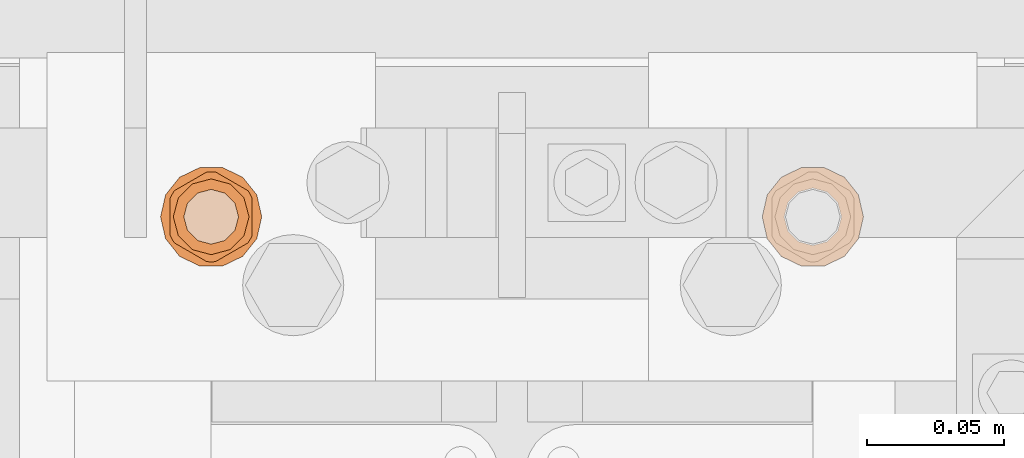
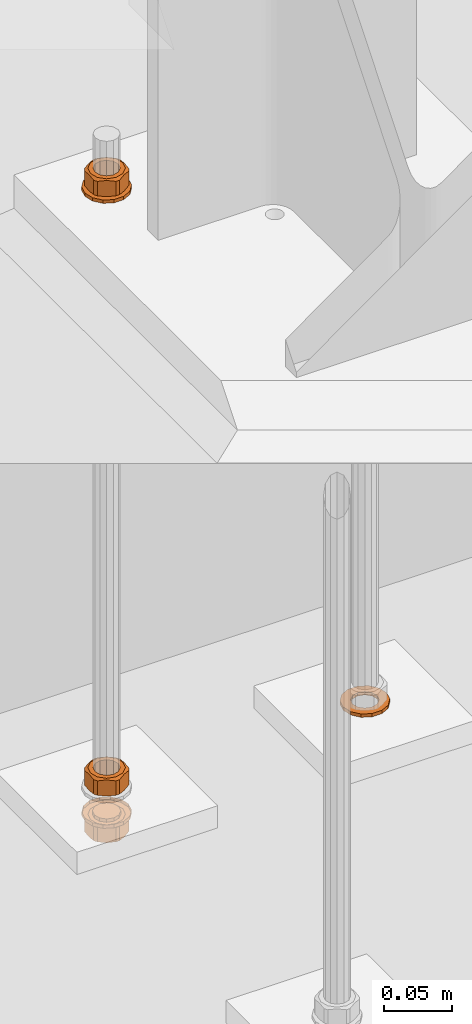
# One storey, part 140 of 145: 6 proxies.
"""IFC2X3 building model written with IfcOpenShell, lengths in millimetres."""

import ifcopenshell
import ifcopenshell.guid

model = None  # the IFC model being written
_history = None  # IfcOwnerHistory: only IFC2X3 demands one
_inside = {}  # id of a spatial element -> (the spatial element, [elements in it])
_under = {}  # id of a project, library or spatial element -> (it, [spatial elements below it])
_declared = {}  # id of a project -> (the project, [libraries it declares])
_typed = {}  # id of a type object -> (the type object, [elements of that type])
_made_of = {}  # id of a material, layer set ... -> (it, [elements and type objects made of it])


def new_model(schema):
    """Start an empty IFC model of exactly this schema.

    Asked for "IFC4X3", IfcOpenShell would pick the latest addendum, in which some entities
    have other attributes; the version numbers below select the first issue.
    IFC2X3 requires an IfcOwnerHistory on every rooted entity: one is made here for all.
    """
    global model, _history
    if schema == "IFC4X3":
        model = ifcopenshell.file(schema_version=(4, 3, 0, 0))
    else:
        model = ifcopenshell.file(schema=schema)
    _inside.clear()
    _under.clear()
    _declared.clear()
    _typed.clear()
    _made_of.clear()
    _history = None
    if model.schema == "IFC2X3":
        org = make("IfcOrganization", Name="unknown")
        user = make(
            "IfcPersonAndOrganization",
            ThePerson=make("IfcPerson", FamilyName="unknown"),
            TheOrganization=org,
        )
        app = make(
            "IfcApplication",
            ApplicationDeveloper=org,
            Version="unknown",
            ApplicationFullName="unknown",
            ApplicationIdentifier="unknown",
        )
        _history = make(
            "IfcOwnerHistory",
            OwningUser=user,
            OwningApplication=app,
            ChangeAction="ADDED",
            CreationDate=0,
        )
    return model


def make(cls, **values):
    """One entity of the class cls with the attributes given. An attribute that is None is left unset."""
    return model.create_entity(
        cls, **{name: value for name, value in values.items() if value is not None}
    )


def entity(cls, *values):
    """Any entity or typed value of the class cls, its attributes in the order of the schema. None: left unset."""
    e = model.create_entity(cls)
    for i, value in enumerate(values):
        if value is not None:
            e[i] = value
    return e


def rooted(cls, **values):
    """An entity with a GlobalId (a new one), such as an element, a storey or a relation."""
    return make(cls, GlobalId=ifcopenshell.guid.new(), OwnerHistory=_history, **values)


def si_unit(unit_type, name, prefix=None):
    """IfcSIUnit, for example si_unit("LENGTHUNIT", "METRE", prefix="MILLI")."""
    return make("IfcSIUnit", UnitType=unit_type, Prefix=prefix, Name=name)


def converted_unit(unit_type, name, factor, base, dimensions=None, offset=None):
    """IfcConversionBasedUnit, such as the inch: factor (a typed value) times the base unit."""
    return make(
        "IfcConversionBasedUnit"
        if offset is None
        else "IfcConversionBasedUnitWithOffset",
        ConversionOffset=offset,
        Dimensions=None
        if dimensions is None
        else entity("IfcDimensionalExponents", *dimensions),
        UnitType=unit_type,
        Name=name,
        ConversionFactor=make(
            "IfcMeasureWithUnit", ValueComponent=factor, UnitComponent=base
        ),
    )


def assignment(units):
    """IfcUnitAssignment: the units of a project."""
    return None if units is None else make("IfcUnitAssignment", Units=units)


def point(xyz):
    """IfcCartesianPoint."""
    return None if xyz is None else make("IfcCartesianPoint", Coordinates=xyz)


def direction(xyz):
    """IfcDirection."""
    return None if xyz is None else make("IfcDirection", DirectionRatios=xyz)


def frame(location, z_axis=None, x_axis=None):
    """IfcAxis2Placement3D, a coordinate frame: its origin and axes. An axis left out is left unset."""
    return make(
        "IfcAxis2Placement3D",
        Location=point(location),
        Axis=direction(z_axis),
        RefDirection=direction(x_axis),
    )


def origin_with_axes():
    """The frame at (0, 0, 0) with the z axis (0, 0, 1) and the x axis (1, 0, 0) written out."""
    return frame((0.0, 0.0, 0.0), z_axis=(0.0, 0.0, 1.0), x_axis=(1.0, 0.0, 0.0))


def place(relative_to, where):
    """IfcLocalPlacement: puts the frame where relative to a parent placement (None: the world)."""
    return make(
        "IfcLocalPlacement", PlacementRelTo=relative_to, RelativePlacement=where
    )


def context(
    kind, dimensions, precision=None, world=None, true_north=None, identifier=None
):
    """IfcGeometricRepresentationContext, for example the 3D "Model" context."""
    return make(
        "IfcGeometricRepresentationContext",
        ContextIdentifier=identifier,
        ContextType=kind,
        CoordinateSpaceDimension=dimensions,
        Precision=precision,
        WorldCoordinateSystem=world,
        TrueNorth=true_north,
    )


def project(units=None, contexts=None):
    """IfcProject with its units and contexts."""
    return rooted(
        "IfcProject",
        Name="project",
        RepresentationContexts=contexts,
        UnitsInContext=assignment(units),
    )


def spatial(cls, under=None, at=None, **own):
    """A site, building, storey or space (cls), placed at a placement, below another one or the project."""
    s = rooted(cls, ObjectPlacement=at, **own)
    if under is not None:
        _under.setdefault(under.id(), (under, []))[1].append(s)
    return s


def faces_of(points, faces, orient=None, outer=None):
    """IfcFace entities. A face is a list of loops; a loop is a list of indices into points, from 0.

    orient and outer hold one flag for each loop. By default every Orientation is true, the
    first loop of a face is its IfcFaceOuterBound and the others are IfcFaceBound.
    """
    made = []
    for i, loops in enumerate(faces):
        bounds = []
        for j, loop in enumerate(loops):
            is_outer = j == 0 if outer is None else outer[i][j]
            bounds.append(
                make(
                    "IfcFaceOuterBound" if is_outer else "IfcFaceBound",
                    Bound=make("IfcPolyLoop", Polygon=[points[k] for k in loop]),
                    Orientation=True if orient is None else orient[i][j],
                )
            )
        made.append(make("IfcFace", Bounds=bounds))
    return made


def faceted_brep(points, faces, orient=None, outer=None, voids=None):
    """IfcFacetedBrep: a solid bounded by flat faces; with voids (closed shells), ...WithVoids."""
    shared = [point(p) for p in points]
    hull = make("IfcClosedShell", CfsFaces=faces_of(shared, faces, orient, outer))
    if voids is None:
        return make("IfcFacetedBrep", Outer=hull)
    return make(
        "IfcFacetedBrepWithVoids",
        Outer=hull,
        Voids=[
            make(cls, CfsFaces=faces_of(shared, fs, o, b)) for cls, fs, o, b in voids
        ],
    )


def shape(context_of_items, identifier, shape_type, items):
    """IfcShapeRepresentation: the items that make up one representation, for example the "Body"."""
    return make(
        "IfcShapeRepresentation",
        ContextOfItems=context_of_items,
        RepresentationIdentifier=identifier,
        RepresentationType=shape_type,
        Items=items,
    )


def material(Name=None, Category=None):
    """IfcMaterial."""
    return make("IfcMaterial", Name=Name, Category=Category)


def made_of(thing, what):
    """Note that an element or type object is made of a material, layer set ...; save() writes the relation."""
    if what is not None:
        _made_of.setdefault(what.id(), (what, []))[1].append(thing)
    return thing


def element(
    cls,
    number,
    at=None,
    inside=None,
    cuts=None,
    type_object=None,
    material=None,
    context=None,
    identifier="Body",
    shape_type=None,
    held_by="IfcProductDefinitionShape",
    body=None,
    shapes=None,
    **own,
):
    """One element of the class cls, such as IfcWall. Its Tag is "e" and its number.

    at: its placement. inside: the storey or other place that contains it. cuts: it is an
    opening in that element (IfcRelVoidsElement). A single representation is given by context,
    identifier, shape_type and body (its items); several are given by shapes. held_by: the class
    of the entity that holds the representations. save() writes the other relations.
    """
    e = rooted(cls, Tag="e%d" % number, ObjectPlacement=at, **own)
    if body is not None:
        shapes = [shape(context, identifier, shape_type, body)]
    if shapes is not None:
        e.Representation = make(held_by, Representations=shapes)
    if inside is not None:
        _inside.setdefault(inside.id(), (inside, []))[1].append(e)
    if cuts is not None:
        rooted(
            "IfcRelVoidsElement", RelatingBuildingElement=cuts, RelatedOpeningElement=e
        )
    if type_object is not None:
        _typed.setdefault(type_object.id(), (type_object, []))[1].append(e)
    return made_of(e, material)


def aggregate(whole, parts):
    """IfcRelAggregates: a whole, such as a stair, and the parts it consists of."""
    return rooted("IfcRelAggregates", RelatingObject=whole, RelatedObjects=parts)


def save(model, path):
    """Write the relations noted so far, then the file.

    IfcRelAggregates (storeys below a building ...), IfcRelContainedInSpatialStructure (elements
    in a storey), IfcRelDefinesByType, IfcRelAssociatesMaterial and IfcRelDeclares: one each for
    every whole, place, type object, material and project.
    """
    for whole, parts in _under.values():
        aggregate(whole, parts)
    for where, things in _inside.values():
        rooted(
            "IfcRelContainedInSpatialStructure",
            RelatedElements=things,
            RelatingStructure=where,
        )
    for kind, things in _typed.values():
        rooted("IfcRelDefinesByType", RelatedObjects=things, RelatingType=kind)
    for what, things in _made_of.values():
        rooted("IfcRelAssociatesMaterial", RelatedObjects=things, RelatingMaterial=what)
    for by, libraries in _declared.values():
        rooted("IfcRelDeclares", RelatingContext=by, RelatedDefinitions=libraries)
    model.write(path)


model = new_model("IFC2X3")

# Units and contexts
model_context = context("Model", 3, precision=1e-09, world=origin_with_axes())
ifc_project = project(units=[si_unit("LENGTHUNIT", "METRE", prefix="MILLI"), si_unit("AREAUNIT", "SQUARE_METRE"), si_unit("VOLUMEUNIT", "CUBIC_METRE"), converted_unit("PLANEANGLEUNIT", "DEGREE", entity("IfcPlaneAngleMeasure", 0.01745329), si_unit("PLANEANGLEUNIT", "RADIAN"), dimensions=[0, 0, 0, 0, 0, 0, 0])], contexts=[model_context])

# Site, building, storey
site_placement = place(None, origin_with_axes())
site = spatial("IfcSite", under=ifc_project, at=site_placement, Name="BZ1 Grund- und Mittelschule 85716 Unterschlei?heim", CompositionType="ELEMENT")
building_placement = place(site_placement, origin_with_axes())
building = spatial("IfcBuilding", under=site, at=building_placement, Name="Struktur 1", CompositionType="ELEMENT")
storey_placement = place(building_placement, origin_with_axes())
storey = spatial("IfcBuildingStorey", under=building, at=storey_placement, Name="Default Storey", CompositionType="ELEMENT", Elevation=0.0)

# Proxies
ifc_material = material(Name="A2")
proxy_1_placement = place(None, origin_with_axes())
element("IfcBuildingElementProxy", 1, at=proxy_1_placement, inside=storey, material=ifc_material, ObjectType="-", context=model_context, shape_type="Brep", body=[
    faceted_brep([(20115.371914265, -1532.772872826, -1245.484455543), (20114.838094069, -1533.697476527, -1245.484455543), (20112.839179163, -1531.927, -1247.0), (20115.371914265, -1532.772872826, -1232.515544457), (20114.838094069, -1533.697476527, -1232.515544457), (20114.245508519, -1534.585563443, -1245.484455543), (20114.245508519, -1534.585563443, -1232.515544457), (20115.844727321, -1531.815635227, -1245.484455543), (20115.844727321, -1531.815635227, -1232.515544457), (20112.839179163, -1531.927, -1231.0), (20115.844727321, -1525.002, -1246.33604719), (20114.694727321, -1525.002, -1247.0), (20108.344727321, -1537.992381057, -1246.33604719), (20108.344727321, -1537.992381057, -1231.66395281), (20102.443946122, -1541.39919867, -1232.515544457), (20102.443946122, -1541.39919867, -1245.484455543), (20101.378547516, -1541.468349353, -1245.484455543), (20101.378547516, -1541.468349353, -1232.515544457), (20100.310907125, -1541.468349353, -1232.515544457), (20100.310907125, -1541.468349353, -1245.484455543), (20115.844727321, -1518.188364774, -1245.484455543), (20115.844727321, -1518.188364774, -1232.515544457), (20115.844727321, -1525.002, -1231.66395281), (20107.769727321, -1513.007548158, -1247.0), (20112.839179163, -1518.077, -1247.0), (20107.769727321, -1536.996451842, -1247.0), (20100.844727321, -1538.852, -1247.0), (20093.919727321, -1536.996451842, -1247.0), (20088.850275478, -1531.927, -1247.0), (20086.994727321, -1525.002, -1247.0), (20088.850275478, -1518.077, -1247.0), (20093.919727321, -1513.007548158, -1247.0), (20100.844727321, -1511.152, -1247.0), (20110.844727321, -1525.002, -1247.0), (20109.504981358, -1520.002, -1247.0), (20105.844727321, -1516.341745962, -1247.0), (20100.844727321, -1515.002, -1247.0), (20095.844727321, -1516.341745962, -1247.0), (20092.184473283, -1520.002, -1247.0), (20090.844727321, -1525.002, -1247.0), (20092.184473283, -1530.002, -1247.0), (20095.844727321, -1533.662254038, -1247.0), (20100.844727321, -1535.002, -1247.0), (20105.844727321, -1533.662254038, -1247.0), (20109.504981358, -1530.002, -1247.0), (20109.504981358, -1530.002, -1231.0), (20105.844727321, -1533.662254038, -1231.0), (20107.769727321, -1536.996451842, -1231.0), (20100.844727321, -1538.852, -1231.0), (20115.371914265, -1517.231127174, -1245.484455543), (20115.371914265, -1517.231127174, -1232.515544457), (20114.694727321, -1525.002, -1231.0), (20112.839179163, -1518.077, -1231.0), (20107.769727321, -1513.007548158, -1231.0), (20100.844727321, -1511.152, -1231.0), (20093.919727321, -1513.007548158, -1231.0), (20088.850275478, -1518.077, -1231.0), (20086.994727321, -1525.002, -1231.0), (20088.850275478, -1531.927, -1231.0), (20093.919727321, -1536.996451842, -1231.0), (20110.844727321, -1525.002, -1231.0), (20100.844727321, -1535.002, -1231.0), (20095.844727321, -1533.662254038, -1231.0), (20092.184473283, -1530.002, -1231.0), (20090.844727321, -1525.002, -1231.0), (20092.184473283, -1520.002, -1231.0), (20095.844727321, -1516.341745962, -1231.0), (20100.844727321, -1515.002, -1231.0), (20105.844727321, -1516.341745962, -1231.0), (20109.504981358, -1520.002, -1231.0), (20099.245508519, -1541.39919867, -1245.484455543), (20099.245508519, -1541.39919867, -1232.515544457), (20114.838094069, -1516.306523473, -1245.484455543), (20114.838094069, -1516.306523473, -1232.515544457), (20093.344727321, -1537.992381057, -1246.33604719), (20093.344727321, -1537.992381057, -1231.66395281), (20087.443946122, -1534.585563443, -1232.515544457), (20087.443946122, -1534.585563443, -1245.484455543), (20114.245508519, -1515.418436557, -1245.484455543), (20114.245508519, -1515.418436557, -1232.515544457), (20108.344727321, -1512.011618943, -1246.33604719), (20102.443946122, -1508.60480133, -1245.484455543), (20102.443946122, -1508.60480133, -1232.515544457), (20108.344727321, -1512.011618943, -1231.66395281), (20086.851360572, -1533.697476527, -1232.515544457), (20086.851360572, -1533.697476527, -1245.484455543), (20086.317540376, -1532.772872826, -1232.515544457), (20086.317540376, -1532.772872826, -1245.484455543), (20101.378547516, -1508.535650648, -1245.484455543), (20101.378547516, -1508.535650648, -1232.515544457), (20100.310907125, -1508.535650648, -1245.484455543), (20100.310907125, -1508.535650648, -1232.515544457), (20085.844727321, -1531.815635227, -1232.515544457), (20085.844727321, -1531.815635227, -1245.484455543), (20099.245508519, -1508.60480133, -1245.484455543), (20099.245508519, -1508.60480133, -1232.515544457), (20085.844727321, -1525.002, -1246.33604719), (20093.344727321, -1512.011618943, -1246.33604719), (20087.443946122, -1515.418436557, -1245.484455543), (20087.443946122, -1515.418436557, -1232.515544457), (20093.344727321, -1512.011618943, -1231.66395281), (20085.844727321, -1525.002, -1231.66395281), (20085.844727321, -1518.188364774, -1232.515544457), (20085.844727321, -1518.188364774, -1245.484455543), (20086.317540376, -1517.231127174, -1245.484455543), (20086.317540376, -1517.231127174, -1232.515544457), (20086.851360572, -1516.306523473, -1245.484455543), (20086.851360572, -1516.306523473, -1232.515544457)], [[[0, 1, 2]], [[0, 3, 4, 1]], [[5, 2, 1]], [[1, 4, 6, 5]], [[7, 0, 2]], [[3, 0, 7, 8]], [[9, 4, 3]], [[10, 7, 11]], [[7, 2, 11]], [[5, 12, 2]], [[6, 13, 14, 15, 12, 5]], [[9, 6, 4]], [[16, 17, 18, 19]], [[17, 16, 15, 14]], [[10, 20, 21, 22, 8, 7]], [[9, 3, 8]], [[20, 10, 11]], [[23, 24, 11, 2, 25, 26, 27, 28, 29, 30, 31, 32], [33, 34, 35, 36, 37, 38, 39, 40, 41, 42, 43, 44]], [[16, 19, 26]], [[12, 25, 2]], [[45, 44, 43, 46]], [[9, 47, 6]], [[48, 17, 14]], [[49, 50, 21, 20]], [[51, 9, 8]], [[9, 51, 52, 53, 54, 55, 56, 57, 58, 59, 48, 47], [60, 45, 46, 61, 62, 63, 64, 65, 66, 67, 68, 69]], [[44, 45, 60, 33]], [[20, 24, 49]], [[20, 11, 24]], [[70, 26, 19]], [[12, 15, 25]], [[15, 16, 26]], [[48, 14, 13]], [[47, 13, 6]], [[19, 18, 71, 70]], [[48, 18, 17]], [[72, 73, 50, 49]], [[51, 8, 22]], [[72, 49, 24]], [[70, 74, 26]], [[15, 26, 25]], [[46, 43, 42, 61]], [[47, 48, 13]], [[48, 71, 18]], [[71, 75, 76, 77, 74, 70]], [[33, 60, 69, 34]], [[78, 79, 73, 72]], [[52, 50, 73]], [[51, 22, 21]], [[52, 21, 50]], [[78, 72, 24]], [[74, 27, 26]], [[48, 59, 71]], [[80, 81, 82, 83, 79, 78]], [[52, 73, 79]], [[52, 51, 21]], [[78, 24, 23]], [[74, 77, 27]], [[61, 42, 41, 62]], [[59, 75, 71]], [[77, 76, 84, 85]], [[34, 69, 68, 35]], [[52, 79, 83]], [[80, 78, 23]], [[81, 80, 32]], [[77, 28, 27]], [[59, 58, 75]], [[58, 76, 75]], [[77, 85, 28]], [[85, 84, 86, 87]], [[88, 89, 82, 81]], [[53, 52, 83]], [[80, 23, 32]], [[81, 32, 88]], [[62, 41, 40, 63]], [[58, 84, 76]], [[85, 87, 28]], [[35, 68, 67, 36]], [[90, 91, 89, 88]], [[53, 83, 82]], [[54, 82, 89]], [[90, 88, 32]], [[86, 84, 58]], [[87, 86, 92, 93]], [[93, 28, 87]], [[39, 64, 63, 40]], [[91, 90, 94, 95]], [[54, 89, 91]], [[54, 53, 82]], [[94, 90, 32]], [[92, 86, 58]], [[93, 96, 28]], [[64, 39, 38, 65]], [[37, 66, 65, 38]], [[36, 67, 66, 37]], [[54, 91, 95]], [[94, 32, 31]], [[97, 98, 99, 100, 95, 94]], [[96, 29, 28]], [[92, 58, 57]], [[92, 101, 102, 103, 96, 93]], [[54, 95, 100]], [[97, 94, 31]], [[96, 103, 29]], [[101, 92, 57]], [[55, 54, 100]], [[97, 31, 30]], [[103, 30, 29]], [[101, 57, 56]], [[55, 100, 99]], [[98, 97, 30]], [[103, 104, 30]], [[103, 102, 105, 104]], [[102, 101, 56]], [[99, 56, 55]], [[98, 30, 106]], [[99, 98, 106, 107]], [[104, 106, 30]], [[102, 56, 105]], [[99, 107, 56]], [[104, 105, 107, 106]], [[107, 105, 56]]]),
])
proxy_2_placement = place(None, origin_with_axes())
element("IfcBuildingElementProxy", 2, at=proxy_2_placement, inside=storey, material=ifc_material, ObjectType="-", context=model_context, shape_type="Brep", body=[
    faceted_brep([(20104.961364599, -1506.965833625, -1273.0), (20112.379288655, -1510.538117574, -1273.0), (20117.512651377, -1516.975150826, -1273.0), (20119.344727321, -1525.002, -1273.0), (20117.512651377, -1533.028849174, -1273.0), (20112.379288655, -1539.465882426, -1273.0), (20104.961364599, -1543.038166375, -1273.0), (20096.728090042, -1543.038166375, -1273.0), (20089.310165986, -1539.465882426, -1273.0), (20084.176803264, -1533.028849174, -1273.0), (20082.344727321, -1525.002, -1273.0), (20084.176803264, -1516.975150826, -1273.0), (20089.310165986, -1510.538117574, -1273.0), (20096.728090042, -1506.965833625, -1273.0), (20100.844727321, -1514.502, -1273.0), (20095.594727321, -1515.90873326, -1273.0), (20091.751460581, -1519.752, -1273.0), (20090.344727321, -1525.002, -1273.0), (20091.751460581, -1530.252, -1273.0), (20095.594727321, -1534.09526674, -1273.0), (20100.844727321, -1535.502, -1273.0), (20106.094727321, -1534.09526674, -1273.0), (20109.93799406, -1530.252, -1273.0), (20111.344727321, -1525.002, -1273.0), (20109.93799406, -1519.752, -1273.0), (20106.094727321, -1515.90873326, -1273.0), (20089.310165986, -1510.538117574, -1270.0), (20096.728090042, -1506.965833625, -1270.0), (20095.594727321, -1515.90873326, -1270.0), (20100.844727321, -1514.502, -1270.0), (20106.094727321, -1515.90873326, -1270.0), (20109.93799406, -1519.752, -1270.0), (20111.344727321, -1525.002, -1270.0), (20109.93799406, -1530.252, -1270.0), (20106.094727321, -1534.09526674, -1270.0), (20100.844727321, -1535.502, -1270.0), (20095.594727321, -1534.09526674, -1270.0), (20091.751460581, -1530.252, -1270.0), (20090.344727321, -1525.002, -1270.0), (20091.751460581, -1519.752, -1270.0), (20084.176803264, -1516.975150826, -1270.0), (20082.344727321, -1525.002, -1270.0), (20104.961364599, -1506.965833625, -1270.0), (20084.176803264, -1533.028849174, -1270.0), (20112.379288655, -1510.538117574, -1270.0), (20089.310165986, -1539.465882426, -1270.0), (20117.512651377, -1516.975150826, -1270.0), (20096.728090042, -1543.038166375, -1270.0), (20119.344727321, -1525.002, -1270.0), (20104.961364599, -1543.038166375, -1270.0), (20117.512651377, -1533.028849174, -1270.0), (20112.379288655, -1539.465882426, -1270.0)], [[[0, 1, 2, 3, 4, 5, 6, 7, 8, 9, 10, 11, 12, 13], [14, 15, 16, 17, 18, 19, 20, 21, 22, 23, 24, 25]], [[12, 26, 27, 13]], [[28, 29, 30, 31, 32, 33, 34, 35, 36, 37, 38, 39]], [[26, 12, 11, 40]], [[15, 28, 39, 16]], [[40, 11, 10, 41]], [[28, 15, 14, 29]], [[13, 27, 42, 0]], [[16, 39, 38, 17]], [[41, 10, 9, 43]], [[29, 14, 25, 30]], [[0, 42, 44, 1]], [[17, 38, 37, 18]], [[43, 9, 8, 45]], [[30, 25, 24, 31]], [[1, 44, 46, 2]], [[18, 37, 36, 19]], [[45, 8, 7, 47]], [[31, 24, 23, 32]], [[48, 3, 2, 46]], [[19, 36, 35, 20]], [[47, 7, 6, 49]], [[3, 48, 50, 4]], [[32, 23, 22, 33]], [[51, 5, 4, 50]], [[49, 6, 5, 51]], [[20, 35, 34, 21]], [[33, 22, 21, 34]]]),
])
proxy_3_placement = place(None, origin_with_axes())
element("IfcBuildingElementProxy", 3, at=proxy_3_placement, inside=storey, material=ifc_material, ObjectType="-", context=model_context, shape_type="Brep", body=[
    faceted_brep([(20114.838094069, -1533.697476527, -1274.515544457), (20115.371914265, -1532.772872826, -1274.515544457), (20112.839179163, -1531.927, -1273.0), (20115.371914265, -1532.772872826, -1287.484455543), (20114.838094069, -1533.697476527, -1287.484455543), (20114.245508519, -1534.585563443, -1274.515544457), (20114.245508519, -1534.585563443, -1287.484455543), (20115.844727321, -1531.815635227, -1274.515544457), (20115.844727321, -1531.815635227, -1287.484455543), (20112.839179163, -1531.927, -1289.0), (20115.844727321, -1525.002, -1273.66395281), (20114.694727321, -1525.002, -1273.0), (20108.344727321, -1537.992381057, -1273.66395281), (20108.344727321, -1537.992381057, -1288.33604719), (20102.443946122, -1541.39919867, -1274.515544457), (20102.443946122, -1541.39919867, -1287.484455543), (20101.378547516, -1541.468349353, -1287.484455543), (20101.378547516, -1541.468349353, -1274.515544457), (20100.310907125, -1541.468349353, -1274.515544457), (20100.310907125, -1541.468349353, -1287.484455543), (20115.844727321, -1518.188364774, -1274.515544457), (20115.844727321, -1525.002, -1288.33604719), (20115.844727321, -1518.188364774, -1287.484455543), (20112.839179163, -1518.077, -1273.0), (20107.769727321, -1513.007548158, -1273.0), (20100.844727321, -1511.152, -1273.0), (20093.919727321, -1513.007548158, -1273.0), (20088.850275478, -1518.077, -1273.0), (20086.994727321, -1525.002, -1273.0), (20088.850275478, -1531.927, -1273.0), (20093.919727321, -1536.996451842, -1273.0), (20100.844727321, -1538.852, -1273.0), (20107.769727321, -1536.996451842, -1273.0), (20110.844727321, -1525.002, -1273.0), (20109.504981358, -1530.002, -1273.0), (20105.844727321, -1533.662254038, -1273.0), (20100.844727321, -1535.002, -1273.0), (20095.844727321, -1533.662254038, -1273.0), (20092.184473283, -1530.002, -1273.0), (20090.844727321, -1525.002, -1273.0), (20092.184473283, -1520.002, -1273.0), (20095.844727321, -1516.341745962, -1273.0), (20100.844727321, -1515.002, -1273.0), (20105.844727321, -1516.341745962, -1273.0), (20109.504981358, -1520.002, -1273.0), (20109.504981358, -1530.002, -1289.0), (20105.844727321, -1533.662254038, -1289.0), (20107.769727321, -1536.996451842, -1289.0), (20100.844727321, -1538.852, -1289.0), (20115.371914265, -1517.231127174, -1287.484455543), (20115.371914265, -1517.231127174, -1274.515544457), (20114.694727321, -1525.002, -1289.0), (20110.844727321, -1525.002, -1289.0), (20109.504981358, -1520.002, -1289.0), (20105.844727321, -1516.341745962, -1289.0), (20100.844727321, -1515.002, -1289.0), (20095.844727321, -1516.341745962, -1289.0), (20092.184473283, -1520.002, -1289.0), (20090.844727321, -1525.002, -1289.0), (20092.184473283, -1530.002, -1289.0), (20095.844727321, -1533.662254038, -1289.0), (20100.844727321, -1535.002, -1289.0), (20099.245508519, -1541.39919867, -1274.515544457), (20099.245508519, -1541.39919867, -1287.484455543), (20114.838094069, -1516.306523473, -1287.484455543), (20114.838094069, -1516.306523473, -1274.515544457), (20093.344727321, -1537.992381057, -1273.66395281), (20093.344727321, -1537.992381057, -1288.33604719), (20087.443946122, -1534.585563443, -1274.515544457), (20087.443946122, -1534.585563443, -1287.484455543), (20114.245508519, -1515.418436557, -1287.484455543), (20114.245508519, -1515.418436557, -1274.515544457), (20112.839179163, -1518.077, -1289.0), (20093.919727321, -1536.996451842, -1289.0), (20102.443946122, -1508.60480133, -1274.515544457), (20108.344727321, -1512.011618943, -1273.66395281), (20108.344727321, -1512.011618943, -1288.33604719), (20102.443946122, -1508.60480133, -1287.484455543), (20086.851360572, -1533.697476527, -1274.515544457), (20086.851360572, -1533.697476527, -1287.484455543), (20088.850275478, -1531.927, -1289.0), (20086.317540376, -1532.772872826, -1274.515544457), (20086.317540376, -1532.772872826, -1287.484455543), (20101.378547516, -1508.535650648, -1287.484455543), (20101.378547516, -1508.535650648, -1274.515544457), (20107.769727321, -1513.007548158, -1289.0), (20100.310907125, -1508.535650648, -1287.484455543), (20100.310907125, -1508.535650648, -1274.515544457), (20100.844727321, -1511.152, -1289.0), (20085.844727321, -1531.815635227, -1274.515544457), (20085.844727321, -1531.815635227, -1287.484455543), (20099.245508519, -1508.60480133, -1287.484455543), (20099.245508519, -1508.60480133, -1274.515544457), (20085.844727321, -1525.002, -1273.66395281), (20087.443946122, -1515.418436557, -1274.515544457), (20093.344727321, -1512.011618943, -1273.66395281), (20093.344727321, -1512.011618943, -1288.33604719), (20087.443946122, -1515.418436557, -1287.484455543), (20086.994727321, -1525.002, -1289.0), (20085.844727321, -1525.002, -1288.33604719), (20085.844727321, -1518.188364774, -1274.515544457), (20085.844727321, -1518.188364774, -1287.484455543), (20093.919727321, -1513.007548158, -1289.0), (20088.850275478, -1518.077, -1289.0), (20086.317540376, -1517.231127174, -1274.515544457), (20086.317540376, -1517.231127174, -1287.484455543), (20086.851360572, -1516.306523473, -1274.515544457), (20086.851360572, -1516.306523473, -1287.484455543)], [[[0, 1, 2]], [[3, 1, 0, 4]], [[2, 5, 0]], [[4, 0, 5, 6]], [[1, 7, 2]], [[1, 3, 8, 7]], [[4, 9, 3]], [[7, 10, 11]], [[2, 7, 11]], [[12, 5, 2]], [[13, 6, 5, 12, 14, 15]], [[6, 9, 4]], [[16, 17, 18, 19]], [[17, 16, 15, 14]], [[20, 10, 7, 8, 21, 22]], [[3, 9, 8]], [[10, 20, 11]], [[23, 24, 25, 26, 27, 28, 29, 30, 31, 32, 2, 11], [33, 34, 35, 36, 37, 38, 39, 40, 41, 42, 43, 44]], [[18, 17, 31]], [[32, 12, 2]], [[34, 45, 46, 35]], [[47, 9, 6]], [[16, 48, 15]], [[49, 50, 20, 22]], [[9, 51, 8]], [[45, 52, 53, 54, 55, 56, 57, 58, 59, 60, 61, 46]], [[45, 34, 33, 52]], [[23, 20, 50]], [[11, 20, 23]], [[31, 62, 18]], [[14, 12, 32]], [[17, 14, 31]], [[15, 48, 13]], [[13, 47, 6]], [[19, 18, 62, 63]], [[19, 48, 16]], [[64, 65, 50, 49]], [[8, 51, 21]], [[50, 65, 23]], [[66, 62, 31]], [[31, 14, 32]], [[35, 46, 61, 36]], [[48, 47, 13]], [[63, 48, 19]], [[67, 63, 62, 66, 68, 69]], [[52, 33, 44, 53]], [[70, 71, 65, 64]], [[49, 72, 64]], [[21, 51, 22]], [[22, 72, 49]], [[65, 71, 23]], [[30, 66, 31]], [[73, 48, 63]], [[74, 75, 71, 70, 76, 77]], [[64, 72, 70]], [[51, 72, 22]], [[23, 71, 24]], [[68, 66, 30]], [[36, 61, 60, 37]], [[67, 73, 63]], [[69, 68, 78, 79]], [[53, 44, 43, 54]], [[70, 72, 76]], [[71, 75, 24]], [[75, 74, 25]], [[29, 68, 30]], [[80, 73, 67]], [[69, 80, 67]], [[78, 68, 29]], [[79, 78, 81, 82]], [[83, 84, 74, 77]], [[72, 85, 76]], [[24, 75, 25]], [[25, 74, 84]], [[37, 60, 59, 38]], [[79, 80, 69]], [[81, 78, 29]], [[54, 43, 42, 55]], [[86, 87, 84, 83]], [[76, 85, 77]], [[77, 88, 83]], [[84, 87, 25]], [[79, 82, 80]], [[82, 81, 89, 90]], [[29, 89, 81]], [[58, 39, 38, 59]], [[87, 86, 91, 92]], [[83, 88, 86]], [[85, 88, 77]], [[87, 92, 25]], [[82, 90, 80]], [[93, 89, 29]], [[39, 58, 57, 40]], [[56, 41, 40, 57]], [[55, 42, 41, 56]], [[86, 88, 91]], [[25, 92, 26]], [[94, 95, 92, 91, 96, 97]], [[28, 93, 29]], [[80, 90, 98]], [[99, 90, 89, 93, 100, 101]], [[91, 88, 96]], [[92, 95, 26]], [[100, 93, 28]], [[90, 99, 98]], [[88, 102, 96]], [[26, 95, 27]], [[27, 100, 28]], [[98, 99, 103]], [[96, 102, 97]], [[95, 94, 27]], [[104, 100, 27]], [[101, 100, 104, 105]], [[99, 101, 103]], [[103, 97, 102]], [[27, 94, 106]], [[94, 97, 107, 106]], [[106, 104, 27]], [[103, 101, 105]], [[107, 97, 103]], [[105, 104, 106, 107]], [[105, 107, 103]]]),
])
proxy_4_placement = place(None, origin_with_axes())
element("IfcBuildingElementProxy", 4, at=proxy_4_placement, inside=storey, material=ifc_material, ObjectType="-", context=model_context, shape_type="Brep", body=[
    faceted_brep([(20112.379288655, -1510.538117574, -707.0), (20104.961364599, -1506.965833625, -707.0), (20096.728090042, -1506.965833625, -707.0), (20089.310165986, -1510.538117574, -707.0), (20084.176803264, -1516.975150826, -707.0), (20082.344727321, -1525.002, -707.0), (20084.176803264, -1533.028849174, -707.0), (20089.310165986, -1539.465882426, -707.0), (20096.728090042, -1543.038166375, -707.0), (20104.961364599, -1543.038166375, -707.0), (20112.379288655, -1539.465882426, -707.0), (20117.512651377, -1533.028849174, -707.0), (20119.344727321, -1525.002, -707.0), (20117.512651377, -1516.975150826, -707.0), (20100.844727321, -1514.502, -707.0), (20106.094727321, -1515.90873326, -707.0), (20109.93799406, -1519.752, -707.0), (20111.344727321, -1525.002, -707.0), (20109.93799406, -1530.252, -707.0), (20106.094727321, -1534.09526674, -707.0), (20100.844727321, -1535.502, -707.0), (20095.594727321, -1534.09526674, -707.0), (20091.751460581, -1530.252, -707.0), (20090.344727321, -1525.002, -707.0), (20091.751460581, -1519.752, -707.0), (20095.594727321, -1515.90873326, -707.0), (20089.310165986, -1510.538117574, -710.0), (20096.728090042, -1506.965833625, -710.0), (20104.961364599, -1506.965833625, -710.0), (20112.379288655, -1510.538117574, -710.0), (20117.512651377, -1516.975150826, -710.0), (20119.344727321, -1525.002, -710.0), (20117.512651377, -1533.028849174, -710.0), (20112.379288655, -1539.465882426, -710.0), (20104.961364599, -1543.038166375, -710.0), (20096.728090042, -1543.038166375, -710.0), (20089.310165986, -1539.465882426, -710.0), (20084.176803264, -1533.028849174, -710.0), (20082.344727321, -1525.002, -710.0), (20084.176803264, -1516.975150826, -710.0), (20100.844727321, -1514.502, -710.0), (20095.594727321, -1515.90873326, -710.0), (20091.751460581, -1519.752, -710.0), (20090.344727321, -1525.002, -710.0), (20091.751460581, -1530.252, -710.0), (20095.594727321, -1534.09526674, -710.0), (20100.844727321, -1535.502, -710.0), (20106.094727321, -1534.09526674, -710.0), (20109.93799406, -1530.252, -710.0), (20111.344727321, -1525.002, -710.0), (20109.93799406, -1519.752, -710.0), (20106.094727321, -1515.90873326, -710.0)], [[[0, 1, 2, 3, 4, 5, 6, 7, 8, 9, 10, 11, 12, 13], [14, 15, 16, 17, 18, 19, 20, 21, 22, 23, 24, 25]], [[26, 3, 2, 27]], [[26, 27, 28, 29, 30, 31, 32, 33, 34, 35, 36, 37, 38, 39], [40, 41, 42, 43, 44, 45, 46, 47, 48, 49, 50, 51]], [[3, 26, 39, 4]], [[41, 25, 24, 42]], [[4, 39, 38, 5]], [[25, 41, 40, 14]], [[27, 2, 1, 28]], [[42, 24, 23, 43]], [[5, 38, 37, 6]], [[14, 40, 51, 15]], [[28, 1, 0, 29]], [[43, 23, 22, 44]], [[6, 37, 36, 7]], [[15, 51, 50, 16]], [[29, 0, 13, 30]], [[44, 22, 21, 45]], [[7, 36, 35, 8]], [[16, 50, 49, 17]], [[12, 31, 30, 13]], [[45, 21, 20, 46]], [[8, 35, 34, 9]], [[31, 12, 11, 32]], [[17, 49, 48, 18]], [[10, 33, 32, 11]], [[9, 34, 33, 10]], [[46, 20, 19, 47]], [[18, 48, 47, 19]]]),
])
proxy_5_placement = place(None, origin_with_axes())
element("IfcBuildingElementProxy", 5, at=proxy_5_placement, inside=storey, material=ifc_material, ObjectType="-", context=model_context, shape_type="Brep", body=[
    faceted_brep([(20115.371914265, -1532.772872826, -705.484455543), (20114.838094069, -1533.697476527, -705.484455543), (20112.839179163, -1531.927, -707.0), (20115.371914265, -1532.772872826, -692.515544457), (20114.838094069, -1533.697476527, -692.515544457), (20114.245508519, -1534.585563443, -705.484455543), (20114.245508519, -1534.585563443, -692.515544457), (20115.844727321, -1531.815635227, -705.484455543), (20115.844727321, -1531.815635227, -692.515544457), (20112.839179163, -1531.927, -691.0), (20115.844727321, -1525.002, -706.33604719), (20114.694727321, -1525.002, -707.0), (20108.344727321, -1537.992381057, -706.33604719), (20108.344727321, -1537.992381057, -691.66395281), (20102.443946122, -1541.39919867, -692.515544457), (20102.443946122, -1541.39919867, -705.484455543), (20101.378547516, -1541.468349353, -705.484455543), (20101.378547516, -1541.468349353, -692.515544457), (20100.310907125, -1541.468349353, -692.515544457), (20100.310907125, -1541.468349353, -705.484455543), (20115.844727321, -1518.188364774, -705.484455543), (20115.844727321, -1518.188364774, -692.515544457), (20115.844727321, -1525.002, -691.66395281), (20107.769727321, -1513.007548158, -707.0), (20112.839179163, -1518.077, -707.0), (20107.769727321, -1536.996451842, -707.0), (20100.844727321, -1538.852, -707.0), (20093.919727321, -1536.996451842, -707.0), (20088.850275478, -1531.927, -707.0), (20086.994727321, -1525.002, -707.0), (20088.850275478, -1518.077, -707.0), (20093.919727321, -1513.007548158, -707.0), (20100.844727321, -1511.152, -707.0), (20110.844727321, -1525.002, -707.0), (20109.504981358, -1520.002, -707.0), (20105.844727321, -1516.341745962, -707.0), (20100.844727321, -1515.002, -707.0), (20095.844727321, -1516.341745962, -707.0), (20092.184473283, -1520.002, -707.0), (20090.844727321, -1525.002, -707.0), (20092.184473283, -1530.002, -707.0), (20095.844727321, -1533.662254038, -707.0), (20100.844727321, -1535.002, -707.0), (20105.844727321, -1533.662254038, -707.0), (20109.504981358, -1530.002, -707.0), (20109.504981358, -1530.002, -691.0), (20105.844727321, -1533.662254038, -691.0), (20107.769727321, -1536.996451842, -691.0), (20100.844727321, -1538.852, -691.0), (20115.371914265, -1517.231127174, -705.484455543), (20115.371914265, -1517.231127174, -692.515544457), (20114.694727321, -1525.002, -691.0), (20112.839179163, -1518.077, -691.0), (20107.769727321, -1513.007548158, -691.0), (20100.844727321, -1511.152, -691.0), (20093.919727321, -1513.007548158, -691.0), (20088.850275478, -1518.077, -691.0), (20086.994727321, -1525.002, -691.0), (20088.850275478, -1531.927, -691.0), (20093.919727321, -1536.996451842, -691.0), (20110.844727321, -1525.002, -691.0), (20100.844727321, -1535.002, -691.0), (20095.844727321, -1533.662254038, -691.0), (20092.184473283, -1530.002, -691.0), (20090.844727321, -1525.002, -691.0), (20092.184473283, -1520.002, -691.0), (20095.844727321, -1516.341745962, -691.0), (20100.844727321, -1515.002, -691.0), (20105.844727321, -1516.341745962, -691.0), (20109.504981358, -1520.002, -691.0), (20099.245508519, -1541.39919867, -705.484455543), (20099.245508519, -1541.39919867, -692.515544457), (20114.838094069, -1516.306523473, -705.484455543), (20114.838094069, -1516.306523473, -692.515544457), (20093.344727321, -1537.992381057, -706.33604719), (20093.344727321, -1537.992381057, -691.66395281), (20087.443946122, -1534.585563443, -692.515544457), (20087.443946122, -1534.585563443, -705.484455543), (20114.245508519, -1515.418436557, -705.484455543), (20114.245508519, -1515.418436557, -692.515544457), (20108.344727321, -1512.011618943, -706.33604719), (20102.443946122, -1508.60480133, -705.484455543), (20102.443946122, -1508.60480133, -692.515544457), (20108.344727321, -1512.011618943, -691.66395281), (20086.851360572, -1533.697476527, -692.515544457), (20086.851360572, -1533.697476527, -705.484455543), (20086.317540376, -1532.772872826, -692.515544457), (20086.317540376, -1532.772872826, -705.484455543), (20101.378547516, -1508.535650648, -705.484455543), (20101.378547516, -1508.535650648, -692.515544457), (20100.310907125, -1508.535650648, -705.484455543), (20100.310907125, -1508.535650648, -692.515544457), (20085.844727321, -1531.815635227, -692.515544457), (20085.844727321, -1531.815635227, -705.484455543), (20099.245508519, -1508.60480133, -705.484455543), (20099.245508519, -1508.60480133, -692.515544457), (20085.844727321, -1525.002, -706.33604719), (20093.344727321, -1512.011618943, -706.33604719), (20087.443946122, -1515.418436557, -705.484455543), (20087.443946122, -1515.418436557, -692.515544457), (20093.344727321, -1512.011618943, -691.66395281), (20085.844727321, -1525.002, -691.66395281), (20085.844727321, -1518.188364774, -692.515544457), (20085.844727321, -1518.188364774, -705.484455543), (20086.317540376, -1517.231127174, -705.484455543), (20086.317540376, -1517.231127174, -692.515544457), (20086.851360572, -1516.306523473, -705.484455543), (20086.851360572, -1516.306523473, -692.515544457)], [[[0, 1, 2]], [[0, 3, 4, 1]], [[5, 2, 1]], [[1, 4, 6, 5]], [[7, 0, 2]], [[3, 0, 7, 8]], [[9, 4, 3]], [[10, 7, 11]], [[7, 2, 11]], [[5, 12, 2]], [[6, 13, 14, 15, 12, 5]], [[9, 6, 4]], [[16, 17, 18, 19]], [[17, 16, 15, 14]], [[10, 20, 21, 22, 8, 7]], [[9, 3, 8]], [[20, 10, 11]], [[23, 24, 11, 2, 25, 26, 27, 28, 29, 30, 31, 32], [33, 34, 35, 36, 37, 38, 39, 40, 41, 42, 43, 44]], [[16, 19, 26]], [[12, 25, 2]], [[45, 44, 43, 46]], [[9, 47, 6]], [[48, 17, 14]], [[49, 50, 21, 20]], [[51, 9, 8]], [[9, 51, 52, 53, 54, 55, 56, 57, 58, 59, 48, 47], [60, 45, 46, 61, 62, 63, 64, 65, 66, 67, 68, 69]], [[44, 45, 60, 33]], [[20, 24, 49]], [[20, 11, 24]], [[70, 26, 19]], [[12, 15, 25]], [[15, 16, 26]], [[48, 14, 13]], [[47, 13, 6]], [[19, 18, 71, 70]], [[48, 18, 17]], [[72, 73, 50, 49]], [[51, 8, 22]], [[72, 49, 24]], [[70, 74, 26]], [[15, 26, 25]], [[46, 43, 42, 61]], [[47, 48, 13]], [[48, 71, 18]], [[71, 75, 76, 77, 74, 70]], [[33, 60, 69, 34]], [[78, 79, 73, 72]], [[52, 50, 73]], [[51, 22, 21]], [[52, 21, 50]], [[78, 72, 24]], [[74, 27, 26]], [[48, 59, 71]], [[80, 81, 82, 83, 79, 78]], [[52, 73, 79]], [[52, 51, 21]], [[78, 24, 23]], [[74, 77, 27]], [[61, 42, 41, 62]], [[59, 75, 71]], [[77, 76, 84, 85]], [[34, 69, 68, 35]], [[52, 79, 83]], [[80, 78, 23]], [[81, 80, 32]], [[77, 28, 27]], [[59, 58, 75]], [[58, 76, 75]], [[77, 85, 28]], [[85, 84, 86, 87]], [[88, 89, 82, 81]], [[53, 52, 83]], [[80, 23, 32]], [[81, 32, 88]], [[62, 41, 40, 63]], [[58, 84, 76]], [[85, 87, 28]], [[35, 68, 67, 36]], [[90, 91, 89, 88]], [[53, 83, 82]], [[54, 82, 89]], [[90, 88, 32]], [[86, 84, 58]], [[87, 86, 92, 93]], [[93, 28, 87]], [[39, 64, 63, 40]], [[91, 90, 94, 95]], [[54, 89, 91]], [[54, 53, 82]], [[94, 90, 32]], [[92, 86, 58]], [[93, 96, 28]], [[64, 39, 38, 65]], [[37, 66, 65, 38]], [[36, 67, 66, 37]], [[54, 91, 95]], [[94, 32, 31]], [[97, 98, 99, 100, 95, 94]], [[96, 29, 28]], [[92, 58, 57]], [[92, 101, 102, 103, 96, 93]], [[54, 95, 100]], [[97, 94, 31]], [[96, 103, 29]], [[101, 92, 57]], [[55, 54, 100]], [[97, 31, 30]], [[103, 30, 29]], [[101, 57, 56]], [[55, 100, 99]], [[98, 97, 30]], [[103, 104, 30]], [[103, 102, 105, 104]], [[102, 101, 56]], [[99, 56, 55]], [[98, 30, 106]], [[99, 98, 106, 107]], [[104, 106, 30]], [[102, 56, 105]], [[99, 107, 56]], [[104, 105, 107, 106]], [[107, 105, 56]]]),
])
proxy_6_placement = place(None, origin_with_axes())
element("IfcBuildingElementProxy", 6, at=proxy_6_placement, inside=storey, material=ifc_material, ObjectType="-", context=model_context, shape_type="Brep", body=[
    faceted_brep([(20332.379288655, -1510.538117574, -1247.0), (20324.961364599, -1506.965833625, -1247.0), (20316.728090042, -1506.965833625, -1247.0), (20309.310165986, -1510.538117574, -1247.0), (20304.176803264, -1516.975150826, -1247.0), (20302.344727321, -1525.002, -1247.0), (20304.176803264, -1533.028849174, -1247.0), (20309.310165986, -1539.465882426, -1247.0), (20316.728090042, -1543.038166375, -1247.0), (20324.961364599, -1543.038166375, -1247.0), (20332.379288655, -1539.465882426, -1247.0), (20337.512651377, -1533.028849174, -1247.0), (20339.344727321, -1525.002, -1247.0), (20337.512651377, -1516.975150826, -1247.0), (20320.844727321, -1514.502, -1247.0), (20326.094727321, -1515.90873326, -1247.0), (20329.93799406, -1519.752, -1247.0), (20331.344727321, -1525.002, -1247.0), (20329.93799406, -1530.252, -1247.0), (20326.094727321, -1534.09526674, -1247.0), (20320.844727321, -1535.502, -1247.0), (20315.594727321, -1534.09526674, -1247.0), (20311.751460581, -1530.252, -1247.0), (20310.344727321, -1525.002, -1247.0), (20311.751460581, -1519.752, -1247.0), (20315.594727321, -1515.90873326, -1247.0), (20309.310165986, -1510.538117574, -1250.0), (20316.728090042, -1506.965833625, -1250.0), (20324.961364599, -1506.965833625, -1250.0), (20332.379288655, -1510.538117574, -1250.0), (20337.512651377, -1516.975150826, -1250.0), (20339.344727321, -1525.002, -1250.0), (20337.512651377, -1533.028849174, -1250.0), (20332.379288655, -1539.465882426, -1250.0), (20324.961364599, -1543.038166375, -1250.0), (20316.728090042, -1543.038166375, -1250.0), (20309.310165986, -1539.465882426, -1250.0), (20304.176803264, -1533.028849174, -1250.0), (20302.344727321, -1525.002, -1250.0), (20304.176803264, -1516.975150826, -1250.0), (20320.844727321, -1514.502, -1250.0), (20315.594727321, -1515.90873326, -1250.0), (20311.751460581, -1519.752, -1250.0), (20310.344727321, -1525.002, -1250.0), (20311.751460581, -1530.252, -1250.0), (20315.594727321, -1534.09526674, -1250.0), (20320.844727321, -1535.502, -1250.0), (20326.094727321, -1534.09526674, -1250.0), (20329.93799406, -1530.252, -1250.0), (20331.344727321, -1525.002, -1250.0), (20329.93799406, -1519.752, -1250.0), (20326.094727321, -1515.90873326, -1250.0)], [[[0, 1, 2, 3, 4, 5, 6, 7, 8, 9, 10, 11, 12, 13], [14, 15, 16, 17, 18, 19, 20, 21, 22, 23, 24, 25]], [[26, 3, 2, 27]], [[26, 27, 28, 29, 30, 31, 32, 33, 34, 35, 36, 37, 38, 39], [40, 41, 42, 43, 44, 45, 46, 47, 48, 49, 50, 51]], [[3, 26, 39, 4]], [[41, 25, 24, 42]], [[4, 39, 38, 5]], [[25, 41, 40, 14]], [[27, 2, 1, 28]], [[42, 24, 23, 43]], [[5, 38, 37, 6]], [[14, 40, 51, 15]], [[28, 1, 0, 29]], [[43, 23, 22, 44]], [[6, 37, 36, 7]], [[15, 51, 50, 16]], [[29, 0, 13, 30]], [[44, 22, 21, 45]], [[7, 36, 35, 8]], [[16, 50, 49, 17]], [[12, 31, 30, 13]], [[45, 21, 20, 46]], [[8, 35, 34, 9]], [[31, 12, 11, 32]], [[17, 49, 48, 18]], [[10, 33, 32, 11]], [[9, 34, 33, 10]], [[46, 20, 19, 47]], [[18, 48, 47, 19]]]),
])

save(model, "model.ifc")
